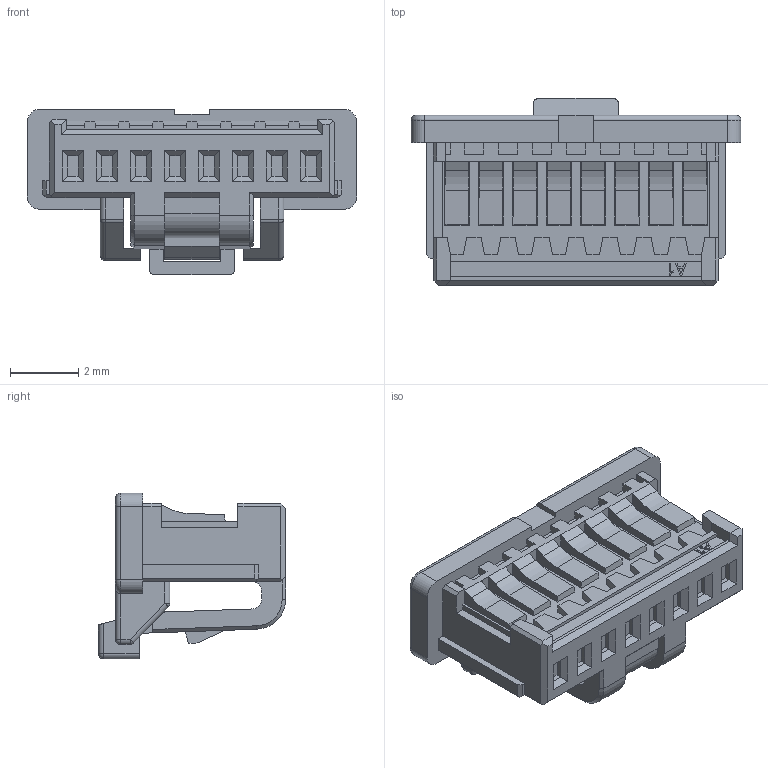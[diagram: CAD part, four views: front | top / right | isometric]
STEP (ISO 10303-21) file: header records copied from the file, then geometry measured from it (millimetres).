
FILE_DESCRIPTION (( 'STEP AP203' ), '1' );
FILE_NAME ('GT-A1008HM-108W01.STEP', '2024-11-06T02:26:10', ( '' ), ( '' ), 'SwSTEP 2.0', 'SolidWorks 2020', '' );
FILE_SCHEMA (( 'CONFIG_CONTROL_DESIGN' ));
Length unit declared in the file: millimetre
Products named in the file (1): GT-A1008HM-108W01
Bounding box: 9.7 x 5.5 x 4.87 mm (x, y, z)
Volume: 104.6 mm3; surface area: 265.4 mm2
Topology: 1 solids, 1 shells, 808 faces, 2161 edges, 1392 vertices
Faces by surface type: plane 660, bspline 81, cylinder 53, sphere 8, torus 4, cone 2
Entity records: 28238 total; most frequent: CARTESIAN_POINT 8617, ORIENTED_EDGE 4312, DIRECTION 3511, EDGE_CURVE 2156, LINE 1875, VECTOR 1875, VERTEX_POINT 1392, EDGE_LOOP 852
